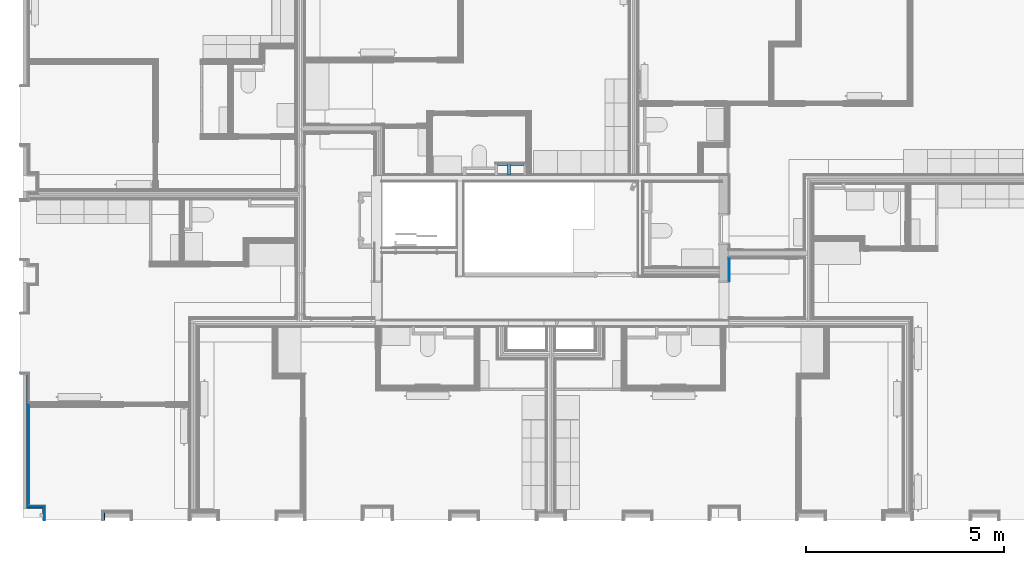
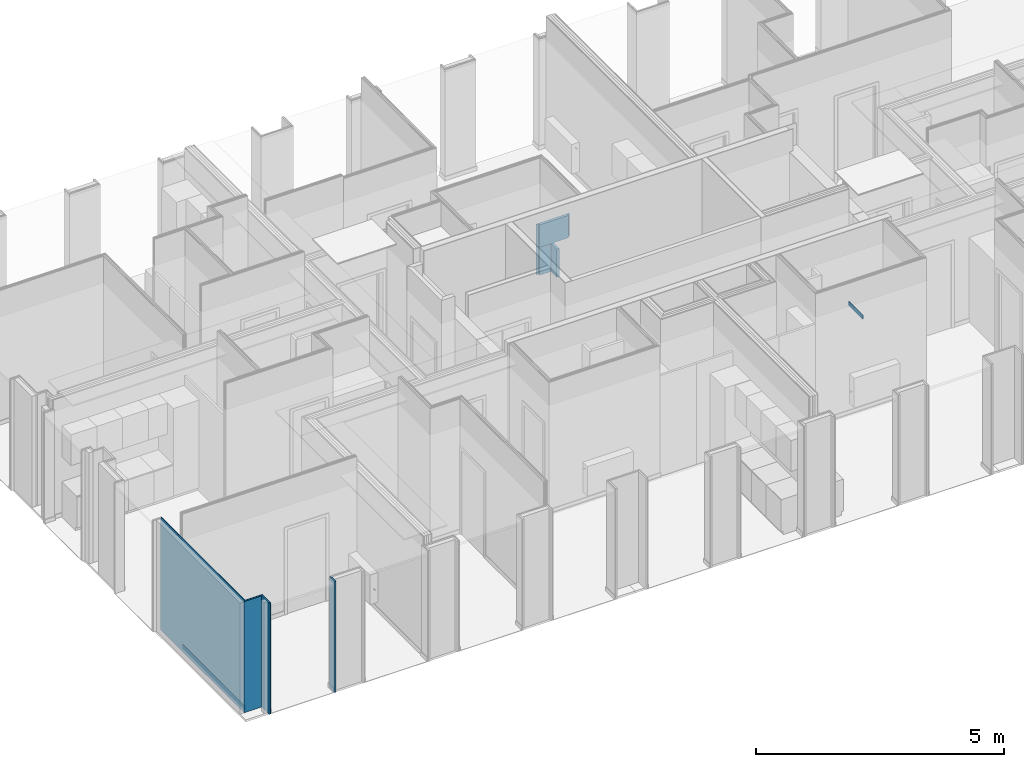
# One storey, part 11 of 65: 8 building element parts, 6 walls, 3 openings, 4 elements without a shape of their own.
"""IFC2X3 building model written with IfcOpenShell, lengths in metres."""

import ifcopenshell
import ifcopenshell.guid

model = None  # the IFC model being written
_history = None  # IfcOwnerHistory: only IFC2X3 demands one
_inside = {}  # id of a spatial element -> (the spatial element, [elements in it])
_under = {}  # id of a project, library or spatial element -> (it, [spatial elements below it])
_declared = {}  # id of a project -> (the project, [libraries it declares])
_typed = {}  # id of a type object -> (the type object, [elements of that type])
_made_of = {}  # id of a material, layer set ... -> (it, [elements and type objects made of it])


def new_model(schema):
    """Start an empty IFC model of exactly this schema.

    Asked for "IFC4X3", IfcOpenShell would pick the latest addendum, in which some entities
    have other attributes; the version numbers below select the first issue.
    IFC2X3 requires an IfcOwnerHistory on every rooted entity: one is made here for all.
    """
    global model, _history
    if schema == "IFC4X3":
        model = ifcopenshell.file(schema_version=(4, 3, 0, 0))
    else:
        model = ifcopenshell.file(schema=schema)
    _inside.clear()
    _under.clear()
    _declared.clear()
    _typed.clear()
    _made_of.clear()
    _history = None
    if model.schema == "IFC2X3":
        org = make("IfcOrganization", Name="unknown")
        user = make(
            "IfcPersonAndOrganization",
            ThePerson=make("IfcPerson", FamilyName="unknown"),
            TheOrganization=org,
        )
        app = make(
            "IfcApplication",
            ApplicationDeveloper=org,
            Version="unknown",
            ApplicationFullName="unknown",
            ApplicationIdentifier="unknown",
        )
        _history = make(
            "IfcOwnerHistory",
            OwningUser=user,
            OwningApplication=app,
            ChangeAction="ADDED",
            CreationDate=0,
        )
    return model


def make(cls, **values):
    """One entity of the class cls with the attributes given. An attribute that is None is left unset."""
    return model.create_entity(
        cls, **{name: value for name, value in values.items() if value is not None}
    )


def entity(cls, *values):
    """Any entity or typed value of the class cls, its attributes in the order of the schema. None: left unset."""
    e = model.create_entity(cls)
    for i, value in enumerate(values):
        if value is not None:
            e[i] = value
    return e


def rooted(cls, **values):
    """An entity with a GlobalId (a new one), such as an element, a storey or a relation."""
    return make(cls, GlobalId=ifcopenshell.guid.new(), OwnerHistory=_history, **values)


def si_unit(unit_type, name, prefix=None):
    """IfcSIUnit, for example si_unit("LENGTHUNIT", "METRE", prefix="MILLI")."""
    return make("IfcSIUnit", UnitType=unit_type, Prefix=prefix, Name=name)


def converted_unit(unit_type, name, factor, base, dimensions=None, offset=None):
    """IfcConversionBasedUnit, such as the inch: factor (a typed value) times the base unit."""
    return make(
        "IfcConversionBasedUnit"
        if offset is None
        else "IfcConversionBasedUnitWithOffset",
        ConversionOffset=offset,
        Dimensions=None
        if dimensions is None
        else entity("IfcDimensionalExponents", *dimensions),
        UnitType=unit_type,
        Name=name,
        ConversionFactor=make(
            "IfcMeasureWithUnit", ValueComponent=factor, UnitComponent=base
        ),
    )


def derived_unit(unit_type, elements):
    """IfcDerivedUnit: a product of units, each with its exponent."""
    return make(
        "IfcDerivedUnit",
        Elements=[
            make("IfcDerivedUnitElement", Unit=unit, Exponent=power)
            for unit, power in elements
        ],
        UnitType=unit_type,
    )


def money_unit(currency):
    """IfcMonetaryUnit."""
    return make("IfcMonetaryUnit", Currency=currency)


def assignment(units):
    """IfcUnitAssignment: the units of a project."""
    return None if units is None else make("IfcUnitAssignment", Units=units)


def point(xyz):
    """IfcCartesianPoint."""
    return None if xyz is None else make("IfcCartesianPoint", Coordinates=xyz)


def direction(xyz):
    """IfcDirection."""
    return None if xyz is None else make("IfcDirection", DirectionRatios=xyz)


def frame(location, z_axis=None, x_axis=None):
    """IfcAxis2Placement3D, a coordinate frame: its origin and axes. An axis left out is left unset."""
    return make(
        "IfcAxis2Placement3D",
        Location=point(location),
        Axis=direction(z_axis),
        RefDirection=direction(x_axis),
    )


def frame_2d(location, x_axis=None):
    """IfcAxis2Placement2D, a coordinate frame in the plane: its origin and x axis."""
    return make(
        "IfcAxis2Placement2D", Location=point(location), RefDirection=direction(x_axis)
    )


def origin_with_axes():
    """The frame at (0, 0, 0) with the z axis (0, 0, 1) and the x axis (1, 0, 0) written out."""
    return frame((0.0, 0.0, 0.0), z_axis=(0.0, 0.0, 1.0), x_axis=(1.0, 0.0, 0.0))


def place(relative_to, where):
    """IfcLocalPlacement: puts the frame where relative to a parent placement (None: the world)."""
    return make(
        "IfcLocalPlacement", PlacementRelTo=relative_to, RelativePlacement=where
    )


def context(
    kind, dimensions, precision=None, world=None, true_north=None, identifier=None
):
    """IfcGeometricRepresentationContext, for example the 3D "Model" context."""
    return make(
        "IfcGeometricRepresentationContext",
        ContextIdentifier=identifier,
        ContextType=kind,
        CoordinateSpaceDimension=dimensions,
        Precision=precision,
        WorldCoordinateSystem=world,
        TrueNorth=true_north,
    )


def subcontext(parent, identifier, kind, view, scale=None):
    """IfcGeometricRepresentationSubContext, for example "Body" below "Model"."""
    return make(
        "IfcGeometricRepresentationSubContext",
        ContextIdentifier=identifier,
        ContextType=kind,
        ParentContext=parent,
        TargetScale=scale,
        TargetView=view,
    )


def project(units=None, contexts=None):
    """IfcProject with its units and contexts."""
    return rooted(
        "IfcProject",
        Name="project",
        RepresentationContexts=contexts,
        UnitsInContext=assignment(units),
    )


def spatial(cls, under=None, at=None, **own):
    """A site, building, storey or space (cls), placed at a placement, below another one or the project."""
    s = rooted(cls, ObjectPlacement=at, **own)
    if under is not None:
        _under.setdefault(under.id(), (under, []))[1].append(s)
    return s


def polyline(points):
    """IfcPolyline through the points."""
    return make("IfcPolyline", Points=[point(p) for p in points])


def profile(cls, at=None, kind="AREA", **sizes):
    """A parametric profile (cls). Its sizes go by their IFC names, for example OverallWidth=200.0."""
    return make(cls, ProfileType=kind, Position=at, **sizes)


def rectangle(**sizes):
    """IfcRectangleProfileDef."""
    return profile("IfcRectangleProfileDef", **sizes)


def outline(outer, holes=None, kind="AREA"):
    """IfcArbitraryClosedProfileDef: a profile drawn as a closed curve; with holes, ...WithVoids."""
    if holes is None:
        return make("IfcArbitraryClosedProfileDef", ProfileType=kind, OuterCurve=outer)
    return make(
        "IfcArbitraryProfileDefWithVoids",
        ProfileType=kind,
        OuterCurve=outer,
        InnerCurves=holes,
    )


def extrude(swept, where, along, depth):
    """IfcExtrudedAreaSolid: the profile swept, set in the frame where, extruded along a direction by depth."""
    return make(
        "IfcExtrudedAreaSolid",
        SweptArea=swept,
        Position=where,
        ExtrudedDirection=direction(along),
        Depth=depth,
    )


def shape(context_of_items, identifier, shape_type, items):
    """IfcShapeRepresentation: the items that make up one representation, for example the "Body"."""
    return make(
        "IfcShapeRepresentation",
        ContextOfItems=context_of_items,
        RepresentationIdentifier=identifier,
        RepresentationType=shape_type,
        Items=items,
    )


def material(Name=None, Category=None):
    """IfcMaterial."""
    return make("IfcMaterial", Name=Name, Category=Category)


def layer(
    of_material, thickness, ventilated=None, Name=None, Category=None, Priority=None
):
    """IfcMaterialLayer: one layer of a wall or slab, of a material (None: an air gap)."""
    return make(
        "IfcMaterialLayer",
        Material=of_material,
        LayerThickness=thickness,
        IsVentilated=ventilated,
        Name=Name,
        Category=Category,
        Priority=Priority,
    )


def layer_set(layers, Name=None):
    """IfcMaterialLayerSet."""
    return make("IfcMaterialLayerSet", MaterialLayers=layers, LayerSetName=Name)


def layer_usage(for_layer_set, set_direction, sense, offset, extent=None):
    """IfcMaterialLayerSetUsage: how a layer set lies in its element."""
    return make(
        "IfcMaterialLayerSetUsage",
        ForLayerSet=for_layer_set,
        LayerSetDirection=set_direction,
        DirectionSense=sense,
        OffsetFromReferenceLine=offset,
        ReferenceExtent=extent,
    )


def made_of(thing, what):
    """Note that an element or type object is made of a material, layer set ...; save() writes the relation."""
    if what is not None:
        _made_of.setdefault(what.id(), (what, []))[1].append(thing)
    return thing


def type_object(cls, material=None, **own):
    """A type object (cls), such as IfcWallType, which elements share."""
    return made_of(rooted(cls, **own), material)


def element(
    cls,
    number,
    at=None,
    inside=None,
    cuts=None,
    type_object=None,
    material=None,
    context=None,
    identifier="Body",
    shape_type=None,
    held_by="IfcProductDefinitionShape",
    body=None,
    shapes=None,
    **own,
):
    """One element of the class cls, such as IfcWall. Its Tag is "e" and its number.

    at: its placement. inside: the storey or other place that contains it. cuts: it is an
    opening in that element (IfcRelVoidsElement). A single representation is given by context,
    identifier, shape_type and body (its items); several are given by shapes. held_by: the class
    of the entity that holds the representations. save() writes the other relations.
    """
    e = rooted(cls, Tag="e%d" % number, ObjectPlacement=at, **own)
    if body is not None:
        shapes = [shape(context, identifier, shape_type, body)]
    if shapes is not None:
        e.Representation = make(held_by, Representations=shapes)
    if inside is not None:
        _inside.setdefault(inside.id(), (inside, []))[1].append(e)
    if cuts is not None:
        rooted(
            "IfcRelVoidsElement", RelatingBuildingElement=cuts, RelatedOpeningElement=e
        )
    if type_object is not None:
        _typed.setdefault(type_object.id(), (type_object, []))[1].append(e)
    return made_of(e, material)


def aggregate(whole, parts):
    """IfcRelAggregates: a whole, such as a stair, and the parts it consists of."""
    return rooted("IfcRelAggregates", RelatingObject=whole, RelatedObjects=parts)


def save(model, path):
    """Write the relations noted so far, then the file.

    IfcRelAggregates (storeys below a building ...), IfcRelContainedInSpatialStructure (elements
    in a storey), IfcRelDefinesByType, IfcRelAssociatesMaterial and IfcRelDeclares: one each for
    every whole, place, type object, material and project.
    """
    for whole, parts in _under.values():
        aggregate(whole, parts)
    for where, things in _inside.values():
        rooted(
            "IfcRelContainedInSpatialStructure",
            RelatedElements=things,
            RelatingStructure=where,
        )
    for kind, things in _typed.values():
        rooted("IfcRelDefinesByType", RelatedObjects=things, RelatingType=kind)
    for what, things in _made_of.values():
        rooted("IfcRelAssociatesMaterial", RelatedObjects=things, RelatingMaterial=what)
    for by, libraries in _declared.values():
        rooted("IfcRelDeclares", RelatingContext=by, RelatedDefinitions=libraries)
    model.write(path)


model = new_model("IFC2X3")

# Units and contexts
model_context = context("Model", 3, precision=1e-05, world=origin_with_axes(), true_north=direction((0.0, 1.0)))
body_context = subcontext(model_context, "Body", "Model", "MODEL_VIEW", scale=1.0)
ifc_project = project(units=[si_unit("LENGTHUNIT", "METRE"), si_unit("AREAUNIT", "SQUARE_METRE"), si_unit("VOLUMEUNIT", "CUBIC_METRE"), si_unit("ABSORBEDDOSEUNIT", "GRAY"), si_unit("AMOUNTOFSUBSTANCEUNIT", "MOLE"), si_unit("DOSEEQUIVALENTUNIT", "SIEVERT"), si_unit("ELECTRICCAPACITANCEUNIT", "FARAD"), si_unit("ELECTRICCHARGEUNIT", "COULOMB"), si_unit("ELECTRICCONDUCTANCEUNIT", "SIEMENS"), si_unit("ELECTRICCURRENTUNIT", "AMPERE"), si_unit("ELECTRICRESISTANCEUNIT", "OHM"), si_unit("ELECTRICVOLTAGEUNIT", "VOLT"), si_unit("ENERGYUNIT", "JOULE"), si_unit("FORCEUNIT", "NEWTON"), si_unit("FREQUENCYUNIT", "HERTZ"), si_unit("ILLUMINANCEUNIT", "LUX"), si_unit("INDUCTANCEUNIT", "HENRY"), si_unit("LUMINOUSFLUXUNIT", "LUMEN"), si_unit("LUMINOUSINTENSITYUNIT", "CANDELA"), si_unit("MAGNETICFLUXDENSITYUNIT", "TESLA"), si_unit("MAGNETICFLUXUNIT", "WEBER"), si_unit("MASSUNIT", "GRAM"), converted_unit("PLANEANGLEUNIT", "degree", entity("IfcReal", 0.0174532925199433), si_unit("PLANEANGLEUNIT", "RADIAN"), dimensions=[0, 0, 0, 0, 0, 0, 0]), si_unit("POWERUNIT", "WATT"), si_unit("PRESSUREUNIT", "PASCAL"), si_unit("RADIOACTIVITYUNIT", "BECQUEREL"), si_unit("SOLIDANGLEUNIT", "STERADIAN"), si_unit("THERMODYNAMICTEMPERATUREUNIT", "KELVIN"), si_unit("TIMEUNIT", "SECOND"), derived_unit("ACCELERATIONUNIT", [(si_unit("LENGTHUNIT", "METRE"), 1), (si_unit("TIMEUNIT", "SECOND"), -2)]), derived_unit("ANGULARVELOCITYUNIT", [(converted_unit("PLANEANGLEUNIT", "degree", entity("IfcReal", 0.0174532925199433), si_unit("PLANEANGLEUNIT", "RADIAN"), dimensions=[0, 0, 0, 0, 0, 0, 0]), 1), (si_unit("TIMEUNIT", "SECOND"), -1)]), derived_unit("CURVATUREUNIT", [(converted_unit("PLANEANGLEUNIT", "degree", entity("IfcReal", 0.0174532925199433), si_unit("PLANEANGLEUNIT", "RADIAN"), dimensions=[0, 0, 0, 0, 0, 0, 0]), 1), (si_unit("LENGTHUNIT", "METRE"), -1)]), derived_unit("DYNAMICVISCOSITYUNIT", [(si_unit("PRESSUREUNIT", "PASCAL"), 1), (si_unit("TIMEUNIT", "SECOND"), 1)]), derived_unit("HEATFLUXDENSITYUNIT", [(si_unit("POWERUNIT", "WATT"), 1), (si_unit("LENGTHUNIT", "METRE"), -2)]), derived_unit("HEATINGVALUEUNIT", [(si_unit("ENERGYUNIT", "JOULE"), 1), (si_unit("MASSUNIT", "GRAM"), -1)]), derived_unit("INTEGERCOUNTRATEUNIT", [(si_unit("TIMEUNIT", "SECOND"), -1)]), derived_unit("IONCONCENTRATIONUNIT", [(si_unit("MASSUNIT", "GRAM"), 1), (si_unit("VOLUMEUNIT", "CUBIC_METRE"), -1)]), derived_unit("ISOTHERMALMOISTURECAPACITYUNIT", [(si_unit("VOLUMEUNIT", "CUBIC_METRE"), 1), (si_unit("MASSUNIT", "GRAM"), -1)]), derived_unit("KINEMATICVISCOSITYUNIT", [(si_unit("AREAUNIT", "SQUARE_METRE"), 1), (si_unit("TIMEUNIT", "SECOND"), -1)]), derived_unit("LINEARFORCEUNIT", [(si_unit("FORCEUNIT", "NEWTON"), 1), (si_unit("LENGTHUNIT", "METRE"), -1)]), derived_unit("LINEARMOMENTUNIT", [(si_unit("FORCEUNIT", "NEWTON"), 1), (si_unit("LENGTHUNIT", "METRE"), -1)]), derived_unit("LINEARSTIFFNESSUNIT", [(si_unit("FORCEUNIT", "NEWTON"), 1), (si_unit("LENGTHUNIT", "METRE"), -1)]), derived_unit("LINEARVELOCITYUNIT", [(si_unit("LENGTHUNIT", "METRE"), 1), (si_unit("TIMEUNIT", "SECOND"), -1)]), derived_unit("LUMINOUSINTENSITYDISTRIBUTIONUNIT", [(si_unit("LUMINOUSINTENSITYUNIT", "CANDELA"), 1), (si_unit("LUMINOUSFLUXUNIT", "LUMEN"), -1)]), derived_unit("MASSDENSITYUNIT", [(si_unit("MASSUNIT", "GRAM"), 1), (si_unit("VOLUMEUNIT", "CUBIC_METRE"), -1)]), derived_unit("MASSFLOWRATEUNIT", [(si_unit("MASSUNIT", "GRAM"), 1), (si_unit("TIMEUNIT", "SECOND"), -1)]), derived_unit("MASSPERLENGTHUNIT", [(si_unit("MASSUNIT", "GRAM"), 1), (si_unit("LENGTHUNIT", "METRE"), -1)]), derived_unit("MODULUSOFELASTICITYUNIT", [(si_unit("FORCEUNIT", "NEWTON"), 1), (si_unit("AREAUNIT", "SQUARE_METRE"), -1)]), derived_unit("MODULUSOFLINEARSUBGRADEREACTIONUNIT", [(si_unit("FORCEUNIT", "NEWTON"), 1), (si_unit("LENGTHUNIT", "METRE"), -2)]), derived_unit("MODULUSOFROTATIONALSUBGRADEREACTIONUNIT", [(si_unit("FORCEUNIT", "NEWTON"), 1), (si_unit("LENGTHUNIT", "METRE"), 1)]), derived_unit("MODULUSOFSUBGRADEREACTIONUNIT", [(si_unit("FORCEUNIT", "NEWTON"), 1), (si_unit("VOLUMEUNIT", "CUBIC_METRE"), -1)]), derived_unit("MOISTUREDIFFUSIVITYUNIT", [(si_unit("VOLUMEUNIT", "CUBIC_METRE"), 1), (si_unit("TIMEUNIT", "SECOND"), -1)]), derived_unit("MOLECULARWEIGHTUNIT", [(si_unit("MASSUNIT", "GRAM"), 1), (si_unit("AMOUNTOFSUBSTANCEUNIT", "MOLE"), -1)]), derived_unit("PLANARFORCEUNIT", [(si_unit("FORCEUNIT", "NEWTON"), 1), (si_unit("LENGTHUNIT", "METRE"), -2)]), derived_unit("ROTATIONALFREQUENCYUNIT", [(si_unit("TIMEUNIT", "SECOND"), -1)]), derived_unit("ROTATIONALMASSUNIT", [(si_unit("MASSUNIT", "GRAM"), 1), (si_unit("LENGTHUNIT", "METRE"), 2)]), derived_unit("ROTATIONALSTIFFNESSUNIT", [(si_unit("FORCEUNIT", "NEWTON"), 1), (si_unit("LENGTHUNIT", "METRE"), 1), (converted_unit("PLANEANGLEUNIT", "degree", entity("IfcReal", 0.0174532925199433), si_unit("PLANEANGLEUNIT", "RADIAN"), dimensions=[0, 0, 0, 0, 0, 0, 0]), -1)]), derived_unit("SECTIONAREAINTEGRALUNIT", [(si_unit("LENGTHUNIT", "METRE"), 5)]), derived_unit("SECTIONMODULUSUNIT", [(si_unit("LENGTHUNIT", "METRE"), 3)]), derived_unit("SHEARMODULUSUNIT", [(si_unit("FORCEUNIT", "NEWTON"), 1), (si_unit("AREAUNIT", "SQUARE_METRE"), -1)]), derived_unit("SOUNDPOWERUNIT", [(si_unit("ENERGYUNIT", "JOULE"), 1), (si_unit("TIMEUNIT", "SECOND"), -1)]), derived_unit("SPECIFICHEATCAPACITYUNIT", [(si_unit("FORCEUNIT", "NEWTON"), 1), (si_unit("MASSUNIT", "GRAM"), -1), (si_unit("THERMODYNAMICTEMPERATUREUNIT", "KELVIN"), -1)]), derived_unit("TEMPERATUREGRADIENTUNIT", [(si_unit("THERMODYNAMICTEMPERATUREUNIT", "KELVIN"), 1), (si_unit("LENGTHUNIT", "METRE"), -1)]), derived_unit("THERMALADMITTANCEUNIT", [(si_unit("POWERUNIT", "WATT"), 1), (si_unit("AREAUNIT", "SQUARE_METRE"), -1), (si_unit("THERMODYNAMICTEMPERATUREUNIT", "KELVIN"), -1)]), derived_unit("THERMALCONDUCTANCEUNIT", [(si_unit("POWERUNIT", "WATT"), 1), (si_unit("LENGTHUNIT", "METRE"), -1), (si_unit("THERMODYNAMICTEMPERATUREUNIT", "KELVIN"), -1)]), derived_unit("THERMALEXPANSIONCOEFFICIENTUNIT", [(si_unit("THERMODYNAMICTEMPERATUREUNIT", "KELVIN"), -1)]), derived_unit("THERMALRESISTANCEUNIT", [(si_unit("AREAUNIT", "SQUARE_METRE"), 1), (si_unit("POWERUNIT", "WATT"), -1)]), derived_unit("THERMALTRANSMITTANCEUNIT", [(si_unit("POWERUNIT", "WATT"), 1), (si_unit("AREAUNIT", "SQUARE_METRE"), -1), (si_unit("THERMODYNAMICTEMPERATUREUNIT", "KELVIN"), -1)]), derived_unit("TORQUEUNIT", [(si_unit("FORCEUNIT", "NEWTON"), 1), (si_unit("LENGTHUNIT", "METRE"), 1)]), derived_unit("VAPORPERMEABILITYUNIT", [(si_unit("MASSUNIT", "GRAM"), 1), (si_unit("TIMEUNIT", "SECOND"), -1)]), derived_unit("VOLUMETRICFLOWRATEUNIT", [(si_unit("VOLUMEUNIT", "CUBIC_METRE"), 1), (si_unit("TIMEUNIT", "SECOND"), -1)]), derived_unit("WARPINGCONSTANTUNIT", [(si_unit("LENGTHUNIT", "METRE"), 6)]), derived_unit("WARPINGMOMENTUNIT", [(si_unit("FORCEUNIT", "NEWTON"), 1), (si_unit("LENGTHUNIT", "METRE"), 2)]), money_unit("GBP")], contexts=[model_context])

# Site, building, storey
site_placement = place(None, origin_with_axes())
site = spatial("IfcSite", under=ifc_project, at=site_placement, Name="Site", CompositionType="ELEMENT")
building_placement = place(site_placement, origin_with_axes())
building = spatial("IfcBuilding", under=site, at=building_placement, Name="Building01", CompositionType="ELEMENT")
storey_placement = place(building_placement, frame((0.0, 0.0, 8.64), z_axis=(0.0, 0.0, 1.0), x_axis=(1.0, 0.0, 0.0)))
storey = spatial("IfcBuildingStorey", under=building, at=storey_placement, Name="2F", CompositionType="ELEMENT", Elevation=8.64)

# Walls
ifc_material_1 = material(Name="A_BSUK_OpeningsClearance")
ifc_layer_1 = layer(ifc_material_1, 0.05, ventilated=False)
ifc_material_2 = material(Name="A_BSUK_Walls_Timber")
ifc_layer_2 = layer(ifc_material_2, 0.015, ventilated=False)
ifc_layer_set_1 = layer_set([ifc_layer_1, ifc_layer_2])
ifc_layer_usage_1 = layer_usage(ifc_layer_set_1, "AXIS2", "POSITIVE", 0.0)
wall_type_1 = type_object("IfcWallType", Name="SHE_A-Walls_Type05c_PreWallShell_65mm", PredefinedType="NOTDEFINED")
wall_1_placement = place(storey_placement, frame((12.153871, 9.055, 2.065), z_axis=(0.0, 0.0, 1.0), x_axis=(1.0, 0.0, 0.0)))
element("IfcWallStandardCase", 1, at=wall_1_placement, inside=storey, type_object=wall_type_1, material=ifc_layer_usage_1, Name="5C", ObjectType="SHE_A-Walls_Type05c_PreWallShell_65mm", context=body_context, shape_type="SweptSolid", body=[
    extrude(outline(polyline([(0.674714, 0.05), (0.724714, 0.05), (0.724714, 0.065), (-0.05, 0.065), (-0.05, 0.05), (0.0, 0.05), (0.0, 0.0), (0.674714, 0.0), (0.674714, 0.05)])), origin_with_axes(), (0.0, 0.0, 1.0), 0.55),
])
wall_2_placement = place(storey_placement, frame((12.153871, 9.055, 1.375), z_axis=(0.0, 0.0, 1.0), x_axis=(1.0, 0.0, 0.0)))
element("IfcWallStandardCase", 2, at=wall_2_placement, inside=storey, type_object=wall_type_1, material=ifc_layer_usage_1, Name="5C", ObjectType="SHE_A-Walls_Type05c_PreWallShell_65mm", context=body_context, shape_type="SweptSolid", body=[
    extrude(outline(polyline([(0.259714, 0.05), (0.309714, 0.05), (0.309714, 0.065), (-0.05, 0.065), (-0.05, 0.05), (0.0, 0.05), (0.0, 0.0), (0.259714, 0.0), (0.259714, 0.05)])), origin_with_axes(), (0.0, 0.0, 1.0), 0.69),
])
wall_3_placement = place(storey_placement, frame((12.413585, 9.105, 1.375), z_axis=(0.0, 0.0, 1.0), x_axis=(0.0, -1.0, 0.0)))
element("IfcWallStandardCase", 3, at=wall_3_placement, inside=storey, type_object=wall_type_1, material=ifc_layer_usage_1, Name="5C", ObjectType="SHE_A-Walls_Type05c_PreWallShell_65mm", context=body_context, shape_type="SweptSolid", body=[
    extrude(outline(polyline([(0.285, 0.065), (-0.015, 0.065), (-0.015, 0.05), (0.0, 0.05), (0.0, 0.0), (0.285, 0.0), (0.285, 0.065)])), origin_with_axes(), (0.0, 0.0, 1.0), 0.69),
])

# Wall, opening
ifc_layer_set_2 = layer_set([ifc_layer_2])
ifc_layer_usage_2 = layer_usage(ifc_layer_set_2, "AXIS2", "POSITIVE", 0.0)
wall_type_2 = type_object("IfcWallType", Name="default", PredefinedType="NOTDEFINED")
wall_4_placement = place(storey_placement, frame((18.0, 6.69, 0.015), z_axis=(0.0, 0.0, 1.0), x_axis=(0.0, -1.0, 0.0)))
wall_4 = element("IfcWallStandardCase", 4, at=wall_4_placement, inside=storey, type_object=wall_type_2, material=ifc_layer_usage_2, Name="default", ObjectType="default", context=body_context, shape_type="SweptSolid", body=[
    extrude(outline(polyline([(1.47, 0.015), (0.0, 0.015), (0.0, 0.0), (1.485, 0.0), (1.47, 0.015)])), origin_with_axes(), (0.0, 0.0, 1.0), 0.1),
])
opening_1_placement = place(wall_4_placement, frame((0.556, 0.0, -0.015), z_axis=(0.0, 0.0, 1.0), x_axis=(1.0, 0.0, 0.0)))
element("IfcOpeningElement", 5, at=opening_1_placement, cuts=wall_4, Name="Opening", ObjectType="Opening", context=body_context, shape_type="SweptSolid", body=[
    extrude(rectangle(XDim=2.142, YDim=1.007262, at=frame_2d((-0.503631, 1.071), x_axis=(0.0, -1.0))), frame((0.0, 0.0, 0.0), z_axis=(0.0, 1.0, 0.0), x_axis=(-1.0, 0.0, 0.0)), (0.0, 0.0, 1.0), 0.015),
])

placement_1 = place(storey_placement, frame((18.0, 6.705, 0.015), z_axis=(0.0, 0.0, 1.0), x_axis=(0.0, -1.0, 0.0)))
wall_5 = element("IfcWallStandardCase", 6, at=placement_1, inside=storey, type_object=wall_type_2, material=ifc_layer_usage_2, Name="default", ObjectType="default", context=body_context, shape_type="SweptSolid", body=[
    extrude(outline(polyline([(1.485, 0.015), (0.0, 0.015), (0.0, 0.0), (1.5, 0.0), (1.485, 0.015)])), origin_with_axes(), (0.0, 0.0, 1.0), 0.1),
])
placement_2 = place(placement_1, frame((0.571, 0.0, -0.015), z_axis=(0.0, 0.0, 1.0), x_axis=(1.0, 0.0, 0.0)))
element("IfcOpeningElement", 7, at=placement_2, cuts=wall_5, Name="Opening", ObjectType="Opening", context=body_context, shape_type="SweptSolid", body=[
    extrude(rectangle(XDim=1.007262, YDim=2.142, at=frame_2d((-0.503631, 1.071), x_axis=(-1.0, 0.0))), frame((0.0, 0.0, 0.0), z_axis=(0.0, 1.0, 0.0), x_axis=(-1.0, 0.0, 0.0)), (0.0, 0.0, 1.0), 0.015),
])

wall_6 = element("IfcWallStandardCase", 8, at=placement_1, inside=storey, type_object=wall_type_2, material=ifc_layer_usage_2, Name="default", ObjectType="default", context=body_context, shape_type="SweptSolid", body=[
    extrude(outline(polyline([(1.485, 0.015), (0.0, 0.015), (0.0, 0.0), (1.5, 0.0), (1.485, 0.015)])), origin_with_axes(), (0.0, 0.0, 1.0), 0.1),
])
element("IfcOpeningElement", 9, at=placement_2, cuts=wall_6, Name="Opening", ObjectType="Opening", context=body_context, shape_type="SweptSolid", body=[
    extrude(rectangle(XDim=1.007262, YDim=2.142, at=frame_2d((-0.503631, 1.071), x_axis=(-1.0, 0.0))), frame((0.0, 0.0, 0.0), z_axis=(0.0, 1.0, 0.0), x_axis=(-1.0, 0.0, 0.0)), (0.0, 0.0, 1.0), 0.015),
])

# Wall, building element parts
wall_type_3 = type_object("IfcWallType", Name="SHE_A-Walls_Type06d_ExternalWallInsulation_48mm", PredefinedType="NOTDEFINED")
wall_7_placement = place(storey_placement, frame((0.27, 0.4, 0.0), z_axis=(0.0, 0.0, 1.0), x_axis=(1.0, 0.0, 0.0)))
wall_7 = element("IfcWall", 10, at=wall_7_placement, inside=storey, type_object=wall_type_3, Name="6D", ObjectType="SHE_A-Walls_Type06d_ExternalWallInsulation_48mm")
ifc_material_3 = material(Name="A_BSUK_Insulation")
placement_3 = place(wall_7_placement, origin_with_axes())
building_element_part_1 = element("IfcBuildingElementPart", 11, at=placement_3, material=ifc_material_3, Name="1", context=body_context, shape_type="SweptSolid", body=[
    extrude(outline(polyline([(0.443, 0.036), (0.036, 0.036), (0.0, 0.0), (0.407, 0.0), (0.443, 0.036)])), origin_with_axes(), (0.0, 0.0, 1.0), 2.74),
])
ifc_material_4 = material(Name="A_BSUK_WallInternal_Finishes_Plasterboard")
building_element_part_2 = element("IfcBuildingElementPart", 12, at=placement_3, material=ifc_material_4, Name="2", context=body_context, shape_type="SweptSolid", body=[
    extrude(outline(polyline([(0.455, 0.048), (0.048, 0.048), (0.035, 0.035), (0.442, 0.035), (0.455, 0.048)])), origin_with_axes(), (0.0, 0.0, 1.0), 2.74),
])
aggregate(wall_7, [building_element_part_1, building_element_part_2])

wall_8_placement = place(storey_placement, frame((0.677, 0.4, 0.0), z_axis=(0.0, 0.0, 1.0), x_axis=(0.0, -1.0, 0.0)))
wall_8 = element("IfcWall", 13, at=wall_8_placement, inside=storey, type_object=wall_type_3, Name="6D", ObjectType="SHE_A-Walls_Type06d_ExternalWallInsulation_48mm")
placement_4 = place(wall_8_placement, origin_with_axes())
building_element_part_3 = element("IfcBuildingElementPart", 14, at=placement_4, material=ifc_material_3, Name="1", context=body_context, shape_type="SweptSolid", body=[
    extrude(outline(polyline([(-0.036, 0.036), (0.0, 0.0), (0.3, 0.0), (0.3, 0.036), (-0.036, 0.036)])), origin_with_axes(), (0.0, 0.0, 1.0), 2.74),
])
building_element_part_4 = element("IfcBuildingElementPart", 15, at=placement_4, material=ifc_material_4, Name="2", context=body_context, shape_type="SweptSolid", body=[
    extrude(outline(polyline([(-0.048, 0.048), (-0.035, 0.035), (0.3, 0.035), (0.3, 0.048), (-0.048, 0.048)])), origin_with_axes(), (0.0, 0.0, 1.0), 2.74),
])
aggregate(wall_8, [building_element_part_3, building_element_part_4])

# Wall, building element part
wall_9_placement = place(storey_placement, frame((2.243, 0.1, 0.0), z_axis=(0.0, 0.0, 1.0), x_axis=(0.0, 1.0, 0.0)))
wall_9 = element("IfcWall", 16, at=wall_9_placement, inside=storey, type_object=wall_type_3, Name="6D", ObjectType="SHE_A-Walls_Type06d_ExternalWallInsulation_48mm")
building_element_part_5_placement = place(wall_9_placement, origin_with_axes())
building_element_part_5 = element("IfcBuildingElementPart", 17, at=building_element_part_5_placement, material=ifc_material_3, Name="1", context=body_context, shape_type="SweptSolid", body=[
    extrude(outline(polyline([(0.206, 0.036), (0.0, 0.036), (0.0, 0.0), (0.17, 0.0), (0.206, 0.036)])), origin_with_axes(), (0.0, 0.0, 1.0), 2.74),
])
aggregate(wall_9, [building_element_part_5])

# Wall, building element parts
wall_10_placement = place(storey_placement, frame((0.27, 3.77418, 0.0), z_axis=(0.0, 0.0, 1.0), x_axis=(0.0, -1.0, 0.0)))
wall_10 = element("IfcWall", 18, at=wall_10_placement, inside=storey, type_object=wall_type_3, Name="6D", ObjectType="SHE_A-Walls_Type06d_ExternalWallInsulation_48mm")
placement_5 = place(wall_10_placement, origin_with_axes())
building_element_part_6 = element("IfcBuildingElementPart", 19, at=placement_5, material=ifc_material_3, Name="1", context=body_context, shape_type="SweptSolid", body=[
    extrude(outline(polyline([(3.33818, 0.036), (-0.036, 0.036), (0.0, 0.0), (3.37418, 0.0), (3.33818, 0.036)])), origin_with_axes(), (0.0, 0.0, 1.0), 2.74),
])
building_element_part_7 = element("IfcBuildingElementPart", 20, at=placement_5, material=ifc_material_4, Name="2", context=body_context, shape_type="SweptSolid", body=[
    extrude(outline(polyline([(3.32618, 0.048), (-0.048, 0.048), (-0.035, 0.035), (3.33918, 0.035), (3.32618, 0.048)])), origin_with_axes(), (0.0, 0.0, 1.0), 2.74),
])
building_element_part_8 = element("IfcBuildingElementPart", 21, at=placement_5, material=ifc_material_2, Name="4", context=body_context, shape_type="SweptSolid", body=[
    extrude(outline(polyline([(3.31118, 0.063), (0.803894, 0.063), (0.803894, 0.048), (3.32618, 0.048), (3.31118, 0.063)])), frame((0.0, 0.0, 0.015), z_axis=(0.0, 0.0, 1.0), x_axis=(1.0, 0.0, 0.0)), (0.0, 0.0, 1.0), 0.1),
])
aggregate(wall_10, [building_element_part_6, building_element_part_7, building_element_part_8])

save(model, "model.ifc")
